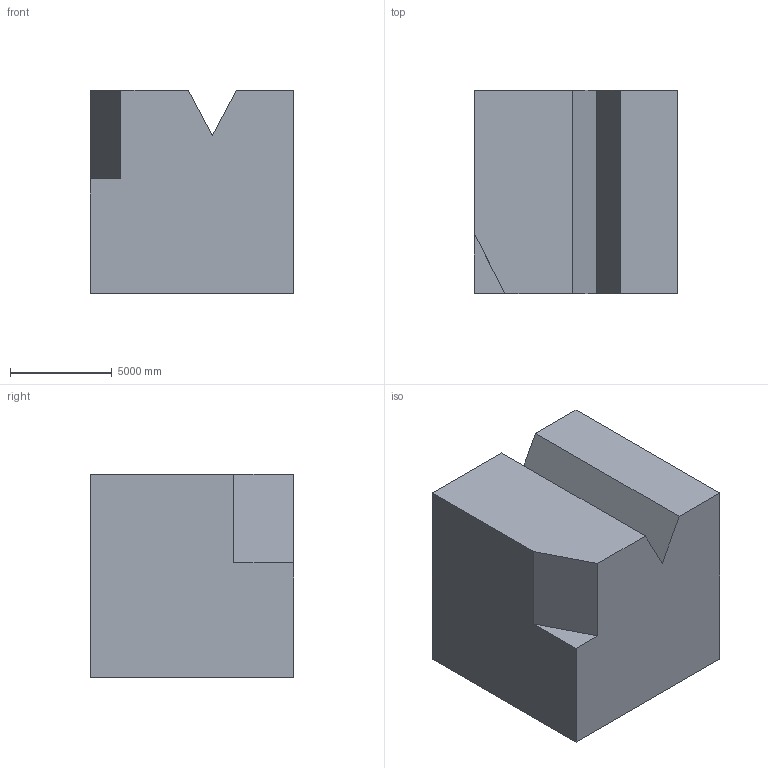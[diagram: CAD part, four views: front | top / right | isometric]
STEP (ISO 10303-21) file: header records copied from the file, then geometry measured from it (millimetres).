
FILE_DESCRIPTION (( 'STEP AP203' ), '1' );
FILE_NAME ('377.STEP', '2022-07-29T11:03:20', ( 'user' ), ( '' ), 'SwSTEP 2.0', 'SolidWorks 2021', '' );
FILE_SCHEMA (( 'CONFIG_CONTROL_DESIGN' ));
Length unit declared in the file: centimetre
Products named in the file (1): 377
Bounding box: 10000 x 10000 x 10000 mm (x, y, z)
Volume: 851987879256.3 mm3; surface area: 717307531.1 mm2
Topology: 1 solids, 1 shells, 20 faces, 51 edges, 34 vertices
Faces by surface type: plane 19, cylinder 1
Entity records: 674 total; most frequent: CARTESIAN_POINT 106, ORIENTED_EDGE 102, DIRECTION 95, EDGE_CURVE 51, VECTOR 49, LINE 49, VERTEX_POINT 34, AXIS2_PLACEMENT_3D 23
